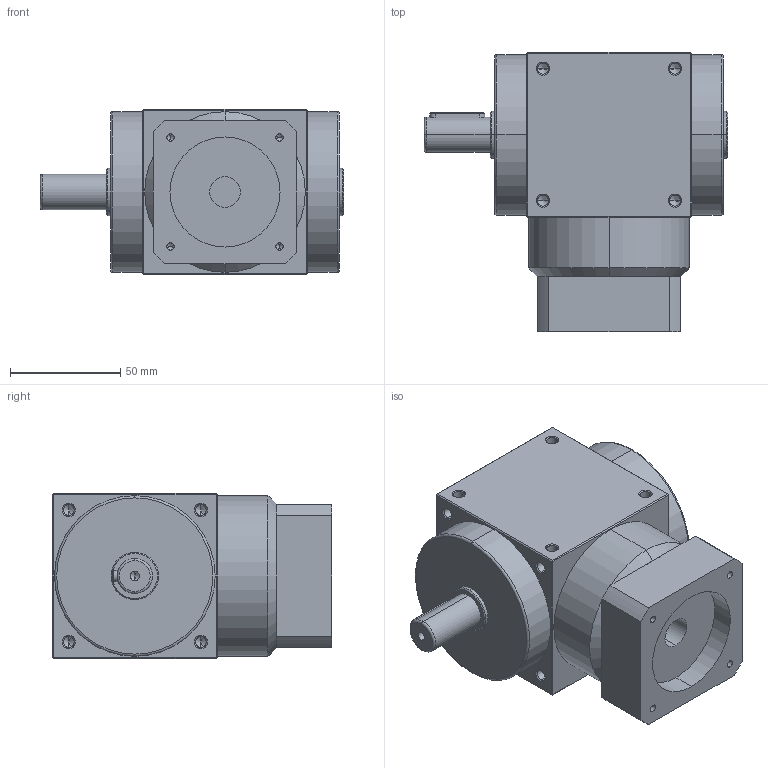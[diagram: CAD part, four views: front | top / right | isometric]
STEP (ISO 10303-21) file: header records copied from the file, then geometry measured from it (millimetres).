
FILE_DESCRIPTION (( 'STEP AP214' ), '1' );
FILE_NAME ('AT075-FL1-001--14-50-70-M4.STEP', '2020-08-21T12:03:57', ( 'User' ), ( 'Far123' ), 'SwSTEP 2.0', 'SolidWorks 2015', '' );
FILE_SCHEMA (( 'AUTOMOTIVE_DESIGN' ));
Length unit declared in the file: millimetre
Products named in the file (1): AT075-FL1-001--14-50-70-M4
Bounding box: 138 x 127 x 75 mm (x, y, z)
Volume: 737115.2 mm3; surface area: 62065 mm2
Topology: 1 solids, 1 shells, 263 faces, 652 edges, 351 vertices
Faces by surface type: cylinder 112, cone 98, plane 47, torus 6
Entity records: 8382 total; most frequent: CARTESIAN_POINT 1615, DIRECTION 1220, ORIENTED_EDGE 1204, EDGE_CURVE 602, AXIS2_PLACEMENT_3D 468, VERTEX_POINT 351, EDGE_LOOP 297, LINE 284
